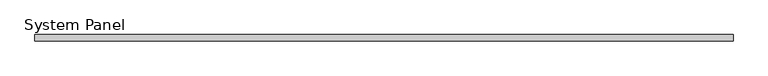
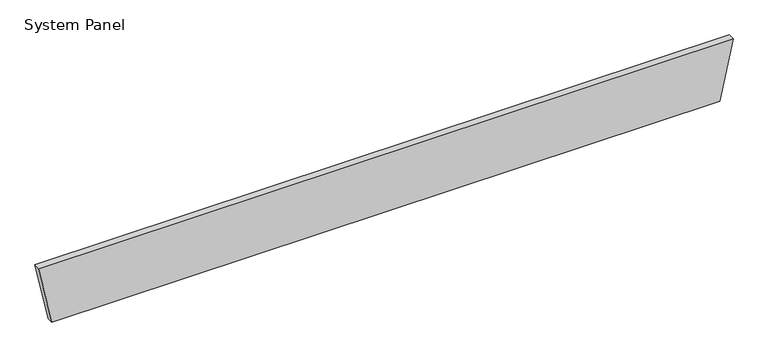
"""IFC4 building model written with IfcOpenShell, lengths in millimetres: plate geometry, System Panel : Equitilt_125mm_Plain_Surfmist."""

import ifcopenshell
import ifcopenshell.guid

model = None  # the IFC model being written
_history = None  # IfcOwnerHistory: only IFC2X3 demands one
_inside = {}  # id of a spatial element -> (the spatial element, [elements in it])
_under = {}  # id of a project, library or spatial element -> (it, [spatial elements below it])
_declared = {}  # id of a project -> (the project, [libraries it declares])
_typed = {}  # id of a type object -> (the type object, [elements of that type])
_made_of = {}  # id of a material, layer set ... -> (it, [elements and type objects made of it])


def new_model(schema):
    """Start an empty IFC model of exactly this schema.

    Asked for "IFC4X3", IfcOpenShell would pick the latest addendum, in which some entities
    have other attributes; the version numbers below select the first issue.
    IFC2X3 requires an IfcOwnerHistory on every rooted entity: one is made here for all.
    """
    global model, _history
    if schema == "IFC4X3":
        model = ifcopenshell.file(schema_version=(4, 3, 0, 0))
    else:
        model = ifcopenshell.file(schema=schema)
    _inside.clear()
    _under.clear()
    _declared.clear()
    _typed.clear()
    _made_of.clear()
    _history = None
    if model.schema == "IFC2X3":
        org = make("IfcOrganization", Name="unknown")
        user = make(
            "IfcPersonAndOrganization",
            ThePerson=make("IfcPerson", FamilyName="unknown"),
            TheOrganization=org,
        )
        app = make(
            "IfcApplication",
            ApplicationDeveloper=org,
            Version="unknown",
            ApplicationFullName="unknown",
            ApplicationIdentifier="unknown",
        )
        _history = make(
            "IfcOwnerHistory",
            OwningUser=user,
            OwningApplication=app,
            ChangeAction="ADDED",
            CreationDate=0,
        )
    return model


def make(cls, **values):
    """One entity of the class cls with the attributes given. An attribute that is None is left unset."""
    return model.create_entity(
        cls, **{name: value for name, value in values.items() if value is not None}
    )


def rooted(cls, **values):
    """An entity with a GlobalId (a new one), such as an element, a storey or a relation."""
    return make(cls, GlobalId=ifcopenshell.guid.new(), OwnerHistory=_history, **values)


def si_unit(unit_type, name, prefix=None):
    """IfcSIUnit, for example si_unit("LENGTHUNIT", "METRE", prefix="MILLI")."""
    return make("IfcSIUnit", UnitType=unit_type, Prefix=prefix, Name=name)


def assignment(units):
    """IfcUnitAssignment: the units of a project."""
    return None if units is None else make("IfcUnitAssignment", Units=units)


def point(xyz):
    """IfcCartesianPoint."""
    return None if xyz is None else make("IfcCartesianPoint", Coordinates=xyz)


def direction(xyz):
    """IfcDirection."""
    return None if xyz is None else make("IfcDirection", DirectionRatios=xyz)


def frame(location, z_axis=None, x_axis=None):
    """IfcAxis2Placement3D, a coordinate frame: its origin and axes. An axis left out is left unset."""
    return make(
        "IfcAxis2Placement3D",
        Location=point(location),
        Axis=direction(z_axis),
        RefDirection=direction(x_axis),
    )


def origin():
    """The frame at (0, 0, 0) with its axes left unset."""
    return frame((0.0, 0.0, 0.0))


def place(relative_to, where):
    """IfcLocalPlacement: puts the frame where relative to a parent placement (None: the world)."""
    return make(
        "IfcLocalPlacement", PlacementRelTo=relative_to, RelativePlacement=where
    )


def context(
    kind, dimensions, precision=None, world=None, true_north=None, identifier=None
):
    """IfcGeometricRepresentationContext, for example the 3D "Model" context."""
    return make(
        "IfcGeometricRepresentationContext",
        ContextIdentifier=identifier,
        ContextType=kind,
        CoordinateSpaceDimension=dimensions,
        Precision=precision,
        WorldCoordinateSystem=world,
        TrueNorth=true_north,
    )


def project(units=None, contexts=None):
    """IfcProject with its units and contexts."""
    return rooted(
        "IfcProject",
        Name="project",
        RepresentationContexts=contexts,
        UnitsInContext=assignment(units),
    )


def spatial(cls, under=None, at=None, **own):
    """A site, building, storey or space (cls), placed at a placement, below another one or the project."""
    s = rooted(cls, ObjectPlacement=at, **own)
    if under is not None:
        _under.setdefault(under.id(), (under, []))[1].append(s)
    return s


def polyline(points):
    """IfcPolyline through the points."""
    return make("IfcPolyline", Points=[point(p) for p in points])


def outline(outer, holes=None, kind="AREA"):
    """IfcArbitraryClosedProfileDef: a profile drawn as a closed curve; with holes, ...WithVoids."""
    if holes is None:
        return make("IfcArbitraryClosedProfileDef", ProfileType=kind, OuterCurve=outer)
    return make(
        "IfcArbitraryProfileDefWithVoids",
        ProfileType=kind,
        OuterCurve=outer,
        InnerCurves=holes,
    )


def extrude(swept, where, along, depth):
    """IfcExtrudedAreaSolid: the profile swept, set in the frame where, extruded along a direction by depth."""
    return make(
        "IfcExtrudedAreaSolid",
        SweptArea=swept,
        Position=where,
        ExtrudedDirection=direction(along),
        Depth=depth,
    )


def shape(context_of_items, identifier, shape_type, items):
    """IfcShapeRepresentation: the items that make up one representation, for example the "Body"."""
    return make(
        "IfcShapeRepresentation",
        ContextOfItems=context_of_items,
        RepresentationIdentifier=identifier,
        RepresentationType=shape_type,
        Items=items,
    )


def source(mapping_origin, context_of_items, identifier, shape_type, items):
    """IfcRepresentationMap: a shape defined once, which mapped items show again and again."""
    return make(
        "IfcRepresentationMap",
        MappingOrigin=mapping_origin,
        MappedRepresentation=shape(context_of_items, identifier, shape_type, items),
    )


def transform(
    local_origin,
    x_axis=None,
    y_axis=None,
    z_axis=None,
    scale=None,
    scale2=None,
    scale3=None,
    uniform=True,
):
    """IfcCartesianTransformationOperator3D, or its non-uniform kind. x_axis, y_axis, z_axis: its Axis1, 2, 3."""
    if uniform:
        return make(
            "IfcCartesianTransformationOperator3D",
            Axis1=direction(x_axis),
            Axis2=direction(y_axis),
            LocalOrigin=point(local_origin),
            Scale=scale,
            Axis3=direction(z_axis),
        )
    return make(
        "IfcCartesianTransformationOperator3DnonUniform",
        Axis1=direction(x_axis),
        Axis2=direction(y_axis),
        LocalOrigin=point(local_origin),
        Scale=scale,
        Axis3=direction(z_axis),
        Scale2=scale2,
        Scale3=scale3,
    )


def mapped(mapping_source, mapping_target):
    """IfcMappedItem: shows the shape of a source again, moved by a transform."""
    return make(
        "IfcMappedItem", MappingSource=mapping_source, MappingTarget=mapping_target
    )


def made_of(thing, what):
    """Note that an element or type object is made of a material, layer set ...; save() writes the relation."""
    if what is not None:
        _made_of.setdefault(what.id(), (what, []))[1].append(thing)
    return thing


def element(
    cls,
    number,
    at=None,
    inside=None,
    cuts=None,
    type_object=None,
    material=None,
    context=None,
    identifier="Body",
    shape_type=None,
    held_by="IfcProductDefinitionShape",
    body=None,
    shapes=None,
    **own,
):
    """One element of the class cls, such as IfcWall. Its Tag is "e" and its number.

    at: its placement. inside: the storey or other place that contains it. cuts: it is an
    opening in that element (IfcRelVoidsElement). A single representation is given by context,
    identifier, shape_type and body (its items); several are given by shapes. held_by: the class
    of the entity that holds the representations. save() writes the other relations.
    """
    e = rooted(cls, Tag="e%d" % number, ObjectPlacement=at, **own)
    if body is not None:
        shapes = [shape(context, identifier, shape_type, body)]
    if shapes is not None:
        e.Representation = make(held_by, Representations=shapes)
    if inside is not None:
        _inside.setdefault(inside.id(), (inside, []))[1].append(e)
    if cuts is not None:
        rooted(
            "IfcRelVoidsElement", RelatingBuildingElement=cuts, RelatedOpeningElement=e
        )
    if type_object is not None:
        _typed.setdefault(type_object.id(), (type_object, []))[1].append(e)
    return made_of(e, material)


def aggregate(whole, parts):
    """IfcRelAggregates: a whole, such as a stair, and the parts it consists of."""
    return rooted("IfcRelAggregates", RelatingObject=whole, RelatedObjects=parts)


def save(model, path):
    """Write the relations noted so far, then the file.

    IfcRelAggregates (storeys below a building ...), IfcRelContainedInSpatialStructure (elements
    in a storey), IfcRelDefinesByType, IfcRelAssociatesMaterial and IfcRelDeclares: one each for
    every whole, place, type object, material and project.
    """
    for whole, parts in _under.values():
        aggregate(whole, parts)
    for where, things in _inside.values():
        rooted(
            "IfcRelContainedInSpatialStructure",
            RelatedElements=things,
            RelatingStructure=where,
        )
    for kind, things in _typed.values():
        rooted("IfcRelDefinesByType", RelatedObjects=things, RelatingType=kind)
    for what, things in _made_of.values():
        rooted("IfcRelAssociatesMaterial", RelatedObjects=things, RelatingMaterial=what)
    for by, libraries in _declared.values():
        rooted("IfcRelDeclares", RelatingContext=by, RelatedDefinitions=libraries)
    model.write(path)


def system_panel_d17300d9(model_context):
    return source(origin(), model_context, "Body", "SweptSolid", [
        extrude(outline(polyline([(0.0, -6521.7433237), (0.0, 6521.7433237), (1200.0, 6782.6149856), (1200.0, -6782.6149856), (0.0, -6521.7433237)])), frame((0.0, -125.0, 0.0), z_axis=(0.0, 1.0, 0.0), x_axis=(0.0, 0.0, 1.0)), (0.0, 0.0, 1.0), 125.0),
    ])


if __name__ == "__main__":
    model = new_model("IFC4")
    model_context = context("Model", 3, world=origin())
    ifc_project = project(units=[si_unit("LENGTHUNIT", "METRE", prefix="MILLI")], contexts=[model_context])
    site = spatial("IfcSite", under=ifc_project)
    building = spatial("IfcBuilding", under=site)
    placement = place(None, origin())
    system_panel_shape = system_panel_d17300d9(model_context)
    element("IfcPlate", 1, ObjectType="System Panel : Equitilt_125mm_Plain_Surfmist", at=placement, inside=building, context=model_context, shape_type="MappedRepresentation", body=[
        mapped(system_panel_shape, transform((0.0, 0.0, 0.0), x_axis=(1.0, 0.0, 0.0), y_axis=(0.0, 1.0, 0.0), z_axis=(0.0, 0.0, 1.0))),
    ])
    save(model, "model.ifc")
